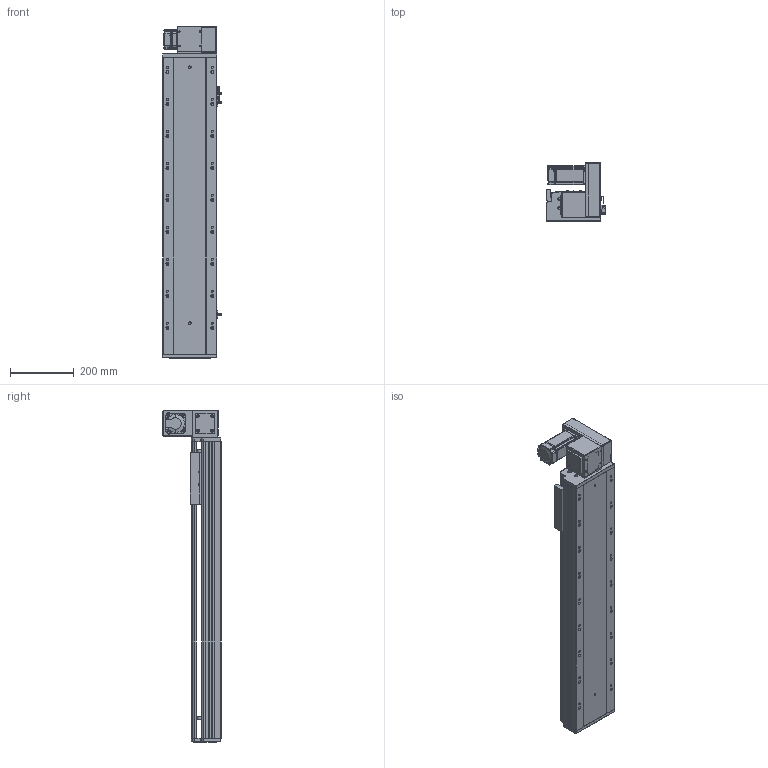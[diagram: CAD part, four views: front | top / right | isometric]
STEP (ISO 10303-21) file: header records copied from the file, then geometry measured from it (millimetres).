
FILE_DESCRIPTION (( 'STEP AP203' ), '1' );
FILE_NAME ('RY170-T-300-UR-P400W.SLDASM_650.step', '2021-03-01T09:27:16', ( '盈信电脑' ), ( '东莞市道滘镇水果街19号' ), 'SwSTEP 2.0', 'SolidWorks 2012', '' );
FILE_SCHEMA (( 'CONFIG_CONTROL_DESIGN' ));
Products named in the file (18): RY170-T-300-UR-P400W.SLDASM_650; RY170-T蹟翐M4; 滅袉蝶18-10; RY170-T肮祭謫裔啣; 15; RY170-T肮祭湍揤踡輸1; RY170-T肮祭湍揤踡輸2; RY120-T主同步轮轴承压盖; RY170肮祭謫萇儂欶; RY170肮祭謫ヶ裔啣; RY170翋肮祭謫釱; RY170同步轮电机安装板(400W); RY170-T-300肮祭謫倰第裔啣-DR_650; RY170綴裔啣; RY170外置感应片(200共用）; 覜茼ん672; RY170肮祭湍臏賑輸; RY170-T-300肮祭謫倰第菁釱-DR_650
Assembly tree (22 placements, depth 2):
  RY170-T-300-UR-P400W.SLDASM_650
    RY170-T-300肮祭謫倰第菁釱-DR_650
    RY170肮祭湍臏賑輸
    RY170-T-300肮祭謫倰第裔啣-DR_650
    RY170綴裔啣
    覜茼ん672  x3
    RY170外置感应片(200共用）
    RY170肮祭謫ヶ裔啣
    RY170翋肮祭謫釱
    RY170同步轮电机安装板(400W)
    RY170肮祭謫萇儂欶
    RY170-T肮祭湍揤踡輸1  x2
    RY170-T肮祭湍揤踡輸2  x2
    RY120-T主同步轮轴承压盖
    RY170-T肮祭謫裔啣
    RY170-T蹟翐M4
    滅袉蝶18-10  x2
    15
Bounding box: 183.7 x 182 x 1038 mm (x, y, z)
Volume: 5441987.9 mm3; surface area: 1830709.3 mm2
Topology: 22 solids, 22 shells, 2752 faces, 7690 edges, 4955 vertices
Faces by surface type: plane 1264, cylinder 1242, cone 216, bspline 30
Entity records: 82928 total; most frequent: CARTESIAN_POINT 18860, ORIENTED_EDGE 13128, DIRECTION 12782, EDGE_CURVE 6564, AXIS2_PLACEMENT_3D 4487, VERTEX_POINT 4311, LINE 3808, VECTOR 3808
